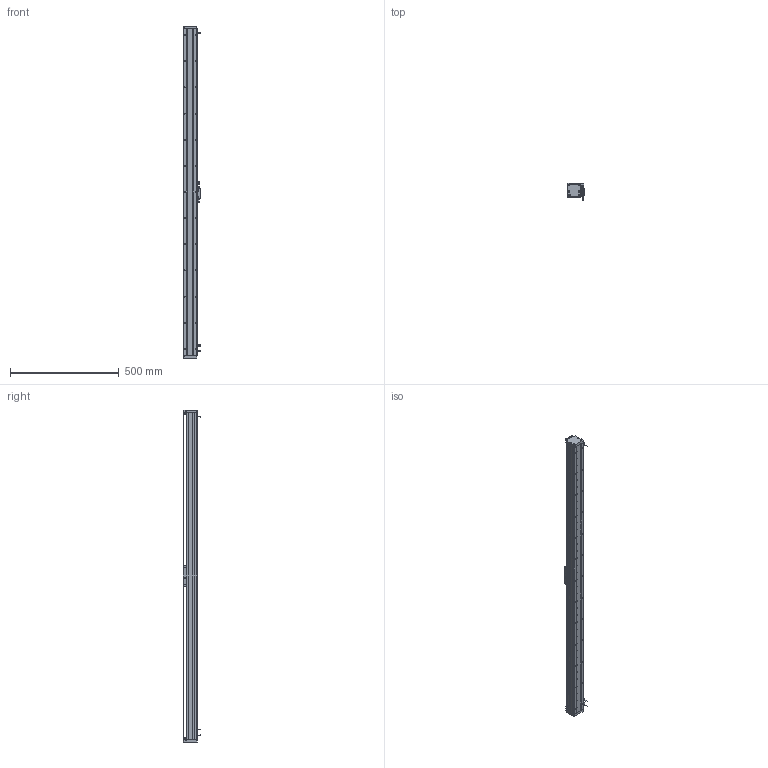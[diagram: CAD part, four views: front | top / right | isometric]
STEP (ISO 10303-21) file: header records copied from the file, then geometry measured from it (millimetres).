
FILE_DESCRIPTION (( 'STEP AP203' ), '1' );
FILE_NAME ('DA-A60-B1-T1360-C010-0.2 眻盄萇儂.STEP', '2025-08-13T02:10:14', ( '' ), ( '' ), 'SwSTEP 2.0', 'SolidWorks 2019', '' );
FILE_SCHEMA (( 'CONFIG_CONTROL_DESIGN' ));
Length unit declared in the file: millimetre
Products named in the file (24): 复件 DA60-DMT-DTJ-00 读数头支架^DA-A60-B1-T-C010-0.2-N 直线电机; DA-A60-GD-1020-00 钢带盖板(默认); 复件 XD-U-02  磁栅尺^DA-A60-B1-T-C010-0.2-N 直线电机; 葩璃 PM-T45^DA-A60-B1-T-C010-0.2-N 眻盄萇儂; DA60-XJ-00 砎蝶結輸; DA60-B1-HT-B-03 賑雄怢啣; AU60-V 幗紩賑怢; DA60嶺詩湍郪璃-T1060; AU60-L 菁釱絳寢; 13679-0000-006-00  钢带压块(默认); 葩璃 DA60-HK-DP-01 結え^AU60-V 幗紩賑怢; 复件 DA60-B1-GT-00 滑块钢轨^DA60-YT-B1-HT-B-01 一体化滑动台板; 葩璃 DMT-010 1米m 0.2M^DA-A60-B1-T-C010-0.2-N 眻盄萇儂; 复件 BAKM01-W030-C1-TP-0.2 直线电机动子^DA-A60-B1-T-C010-0.2-N 直线电机; 复件 DA60-GT-T-00 底座钢轨^AU60-L 底座导轨; 13679-0000-004-00 傷啣; 复件 纯铜油杯 6x6mm^AU60-V 滚珠滑台; IU-AU60-L-00 菁釱(1500); 葩璃 AKM01-W030-TRL^DA-A60-B1-T-C010-0.2-N 眻盄萇儂; 13679-0000-005-00 詩湍嶺輸; DA60-YT-B1-HT-B-01 珨极趙賑雄怢啣; 复件 DA-A60-GYP-DMT-00 光电感应片^DA-A60-B1-T-C010-0.2-N 直线电机(默认); DA-A60-B1-T1360-C010-0.2 眻盄萇儂; 复件 六角薄螺母 M3^DA-A60-B1-T-C010-0.2-N 直线电机(GB_FASTENER_NUT_STNAB M3-C)
Assembly tree (38 placements, depth 4):
  DA-A60-B1-T1360-C010-0.2 眻盄萇儂
    AU60-L 菁釱絳寢
      IU-AU60-L-00 菁釱(1500)
      复件 DA60-GT-T-00 底座钢轨^AU60-L 底座导轨  x2
    AU60-V 幗紩賑怢
      DA60-YT-B1-HT-B-01 珨极趙賑雄怢啣
        DA60-B1-HT-B-03 賑雄怢啣
        复件 DA60-B1-GT-00 滑块钢轨^DA60-YT-B1-HT-B-01 一体化滑动台板  x2
      葩璃 DA60-HK-DP-01 結え^AU60-V 幗紩賑怢  x2
      复件 纯铜油杯 6x6mm^AU60-V 滚珠滑台
    DA60嶺詩湍郪璃-T1060
      13679-0000-006-00  钢带压块(默认)  x2
      DA-A60-GD-1020-00 钢带盖板(默认)
      13679-0000-004-00 傷啣  x2
      DA60-XJ-00 砎蝶結輸  x2
      13679-0000-005-00 詩湍嶺輸  x2
    复件 DA-A60-GYP-DMT-00 光电感应片^DA-A60-B1-T-C010-0.2-N 直线电机(默认)  x2
    复件 DA60-DMT-DTJ-00 读数头支架^DA-A60-B1-T-C010-0.2-N 直线电机
    葩璃 DMT-010 1米m 0.2M^DA-A60-B1-T-C010-0.2-N 眻盄萇儂
    复件 BAKM01-W030-C1-TP-0.2 直线电机动子^DA-A60-B1-T-C010-0.2-N 直线电机
    葩璃 AKM01-W030-TRL^DA-A60-B1-T-C010-0.2-N 眻盄萇儂
    葩璃 PM-T45^DA-A60-B1-T-C010-0.2-N 眻盄萇儂  x3
    复件 XD-U-02  磁栅尺^DA-A60-B1-T-C010-0.2-N 直线电机
    复件 六角薄螺母 M3^DA-A60-B1-T-C010-0.2-N 直线电机(GB_FASTENER_NUT_STNAB M3-C)  x6
Bounding box: 76.95 x 80 x 1524 mm (x, y, z)
Volume: 2934595.4 mm3; surface area: 1057594.6 mm2
Topology: 39 solids, 41 shells, 2376 faces, 6698 edges, 4289 vertices
Faces by surface type: cylinder 1097, plane 1081, cone 186, bspline 7, torus 4, sphere 1
Entity records: 70882 total; most frequent: CARTESIAN_POINT 17003, ORIENTED_EDGE 10944, DIRECTION 10372, EDGE_CURVE 5472, AXIS2_PLACEMENT_3D 3657, VERTEX_POINT 3567, VECTOR 3058, LINE 3058
